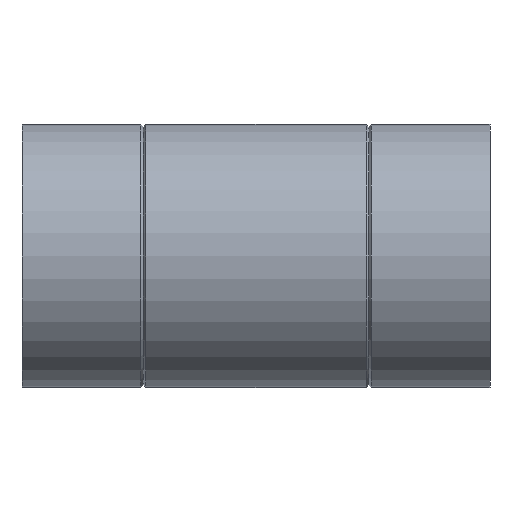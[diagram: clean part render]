
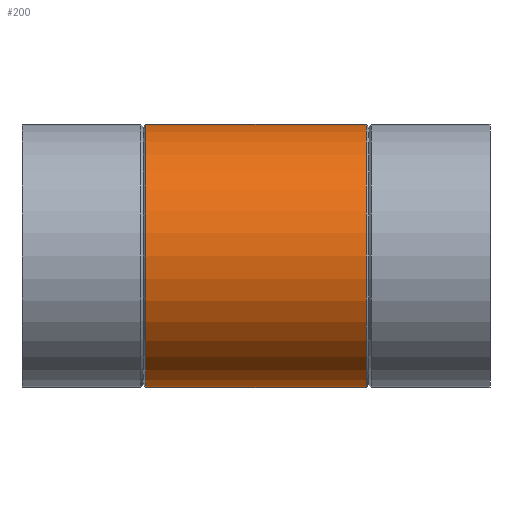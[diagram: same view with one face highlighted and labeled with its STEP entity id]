
A CAD part, left-side view. The second image highlights one B-rep face of the part: STEP entity #200.
In plain terms, the highlighted cylindrical face has radius 157.5 mm (diameter 315 mm), a full revolution.
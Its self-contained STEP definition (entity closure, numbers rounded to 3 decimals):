
#15=B_SPLINE_CURVE_WITH_KNOTS($,3,(#325,#326,#327,#328,#329,#330,#331,#332,
#333,#334,#335,#336,#337,#338,#339,#340,#341,#342,#343,#344,#345,#346,#347,
#348,#349,#350,#351,#352,#353,#354,#355,#356,#357,#358,#359,#360,#361,#362,
#363,#364,#365,#366,#367,#368,#369,#370,#371,#372,#373,#374,#375,#376,#377,
#378,#379,#380,#381,#382,#383,#384,#385,#386,#387,#388,#389,#390),
 .UNSPECIFIED.,.T.,.F.,(4,2,2,2,2,2,2,2,2,2,2,2,2,2,2,2,2,2,2,2,2,2,2,2,
2,2,2,2,2,2,2,2,4),(0.,1.55,3.1,4.65,
6.2,7.737,9.274,10.811,12.348,
13.885,15.422,16.96,18.497,20.047,
21.597,23.147,24.697,26.23,27.763,
29.296,30.829,32.364,33.9,35.436,
36.972,38.508,40.044,41.579,43.115,
44.648,46.181,47.714,49.247),
 .UNSPECIFIED.);
#17=CYLINDRICAL_SURFACE($,#222,157.5);
#26=FACE_BOUND($,#63,.T.);
#27=FACE_BOUND($,#64,.T.);
#48=FACE_OUTER_BOUND($,#62,.T.);
#62=EDGE_LOOP($,(#145));
#63=EDGE_LOOP($,(#146));
#64=EDGE_LOOP($,(#147));
#94=CIRCLE($,#221,157.5);
#95=CIRCLE($,#223,157.5);
#109=VERTEX_POINT($,#319);
#110=VERTEX_POINT($,#322);
#111=VERTEX_POINT($,#324);
#126=EDGE_CURVE($,#109,#109,#94,.T.);
#127=EDGE_CURVE($,#110,#110,#95,.T.);
#128=EDGE_CURVE($,#111,#111,#15,.T.);
#145=ORIENTED_EDGE($,*,*,#127,.T.);
#146=ORIENTED_EDGE($,*,*,#128,.T.);
#147=ORIENTED_EDGE($,*,*,#126,.T.);
#200=ADVANCED_FACE($,(#48,#26,#27),#17,.T.);
#221=AXIS2_PLACEMENT_3D($,#320,#258,#259);
#222=AXIS2_PLACEMENT_3D($,#321,#260,#261);
#223=AXIS2_PLACEMENT_3D($,#323,#262,#263);
#258=DIRECTION('center_axis',(0.,-1.,0.));
#259=DIRECTION('ref_axis',(1.,0.,0.));
#260=DIRECTION('center_axis',(0.,1.,0.));
#261=DIRECTION('ref_axis',(1.,0.,0.));
#262=DIRECTION('center_axis',(0.,1.,0.));
#263=DIRECTION('ref_axis',(1.,0.,0.));
#319=CARTESIAN_POINT('',(157.5,411.85,0.));
#320=CARTESIAN_POINT('Origin',(0.,411.85,0.));
#321=CARTESIAN_POINT('Origin',(0.,0.,0.));
#322=CARTESIAN_POINT('',(-157.5,148.15,0.));
#323=CARTESIAN_POINT('Origin',(0.,148.15,0.));
#324=CARTESIAN_POINT('',(135.67,283.553,80.));
#325=CARTESIAN_POINT('Ctrl Pts',(135.67,283.553,80.));
#326=CARTESIAN_POINT('Ctrl Pts',(135.67,288.719,80.));
#327=CARTESIAN_POINT('Ctrl Pts',(135.973,294.021,79.492));
#328=CARTESIAN_POINT('Ctrl Pts',(137.172,304.499,77.405));
#329=CARTESIAN_POINT('Ctrl Pts',(138.065,309.676,75.827));
#330=CARTESIAN_POINT('Ctrl Pts',(140.251,319.559,71.704));
#331=CARTESIAN_POINT('Ctrl Pts',(141.542,324.274,69.156));
#332=CARTESIAN_POINT('Ctrl Pts',(144.254,332.985,63.305));
#333=CARTESIAN_POINT('Ctrl Pts',(145.672,336.979,60.001));
#334=CARTESIAN_POINT('Ctrl Pts',(148.36,344.029,53.003));
#335=CARTESIAN_POINT('Ctrl Pts',(149.731,347.346,49.061));
#336=CARTESIAN_POINT('Ctrl Pts',(152.286,353.232,40.442));
#337=CARTESIAN_POINT('Ctrl Pts',(153.467,355.801,35.764));
#338=CARTESIAN_POINT('Ctrl Pts',(155.428,359.957,25.949));
#339=CARTESIAN_POINT('Ctrl Pts',(156.208,361.547,20.803));
#340=CARTESIAN_POINT('Ctrl Pts',(157.244,363.645,10.39));
#341=CARTESIAN_POINT('Ctrl Pts',(157.5,364.152,5.123));
#342=CARTESIAN_POINT('Ctrl Pts',(157.5,364.152,-5.123));
#343=CARTESIAN_POINT('Ctrl Pts',(157.244,363.645,-10.39));
#344=CARTESIAN_POINT('Ctrl Pts',(156.208,361.547,-20.803));
#345=CARTESIAN_POINT('Ctrl Pts',(155.428,359.957,-25.949));
#346=CARTESIAN_POINT('Ctrl Pts',(153.467,355.801,-35.764));
#347=CARTESIAN_POINT('Ctrl Pts',(152.286,353.232,-40.442));
#348=CARTESIAN_POINT('Ctrl Pts',(149.731,347.346,-49.061));
#349=CARTESIAN_POINT('Ctrl Pts',(148.36,344.029,-53.003));
#350=CARTESIAN_POINT('Ctrl Pts',(145.672,336.979,-60.001));
#351=CARTESIAN_POINT('Ctrl Pts',(144.254,332.985,-63.305));
#352=CARTESIAN_POINT('Ctrl Pts',(141.542,324.274,-69.156));
#353=CARTESIAN_POINT('Ctrl Pts',(140.251,319.559,-71.704));
#354=CARTESIAN_POINT('Ctrl Pts',(138.065,309.676,-75.827));
#355=CARTESIAN_POINT('Ctrl Pts',(137.172,304.499,-77.405));
#356=CARTESIAN_POINT('Ctrl Pts',(135.973,294.021,-79.492));
#357=CARTESIAN_POINT('Ctrl Pts',(135.67,288.719,-80.));
#358=CARTESIAN_POINT('Ctrl Pts',(135.67,278.443,-80.));
#359=CARTESIAN_POINT('Ctrl Pts',(135.967,273.197,-79.503));
#360=CARTESIAN_POINT('Ctrl Pts',(137.15,262.834,-77.443));
#361=CARTESIAN_POINT('Ctrl Pts',(138.035,257.716,-75.881));
#362=CARTESIAN_POINT('Ctrl Pts',(140.207,247.959,-71.79));
#363=CARTESIAN_POINT('Ctrl Pts',(141.493,243.309,-69.256));
#364=CARTESIAN_POINT('Ctrl Pts',(144.198,234.733,-63.432));
#365=CARTESIAN_POINT('Ctrl Pts',(145.614,230.808,-60.141));
#366=CARTESIAN_POINT('Ctrl Pts',(148.313,223.856,-53.139));
#367=CARTESIAN_POINT('Ctrl Pts',(149.695,220.58,-49.175));
#368=CARTESIAN_POINT('Ctrl Pts',(152.267,214.783,-40.514));
#369=CARTESIAN_POINT('Ctrl Pts',(153.456,212.261,-35.817));
#370=CARTESIAN_POINT('Ctrl Pts',(155.425,208.189,-25.97));
#371=CARTESIAN_POINT('Ctrl Pts',(156.207,206.636,-20.812));
#372=CARTESIAN_POINT('Ctrl Pts',(157.244,204.59,-10.387));
#373=CARTESIAN_POINT('Ctrl Pts',(157.5,204.097,-5.119));
#374=CARTESIAN_POINT('Ctrl Pts',(157.5,204.097,5.119));
#375=CARTESIAN_POINT('Ctrl Pts',(157.244,204.59,10.387));
#376=CARTESIAN_POINT('Ctrl Pts',(156.207,206.636,20.812));
#377=CARTESIAN_POINT('Ctrl Pts',(155.425,208.189,25.97));
#378=CARTESIAN_POINT('Ctrl Pts',(153.456,212.261,35.817));
#379=CARTESIAN_POINT('Ctrl Pts',(152.267,214.783,40.514));
#380=CARTESIAN_POINT('Ctrl Pts',(149.695,220.58,49.175));
#381=CARTESIAN_POINT('Ctrl Pts',(148.313,223.856,53.139));
#382=CARTESIAN_POINT('Ctrl Pts',(145.614,230.808,60.141));
#383=CARTESIAN_POINT('Ctrl Pts',(144.198,234.733,63.432));
#384=CARTESIAN_POINT('Ctrl Pts',(141.493,243.309,69.256));
#385=CARTESIAN_POINT('Ctrl Pts',(140.207,247.959,71.79));
#386=CARTESIAN_POINT('Ctrl Pts',(138.035,257.716,75.881));
#387=CARTESIAN_POINT('Ctrl Pts',(137.15,262.834,77.443));
#388=CARTESIAN_POINT('Ctrl Pts',(135.967,273.197,79.503));
#389=CARTESIAN_POINT('Ctrl Pts',(135.67,278.443,80.));
#390=CARTESIAN_POINT('Ctrl Pts',(135.67,283.553,80.));
